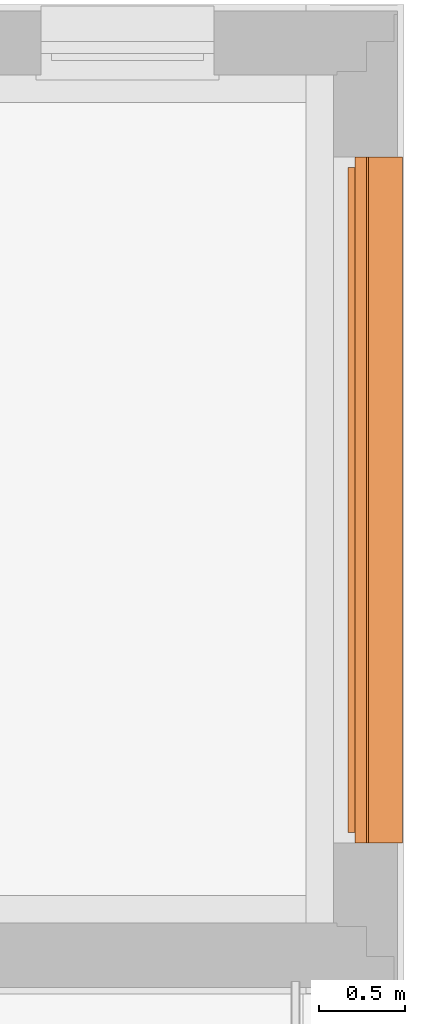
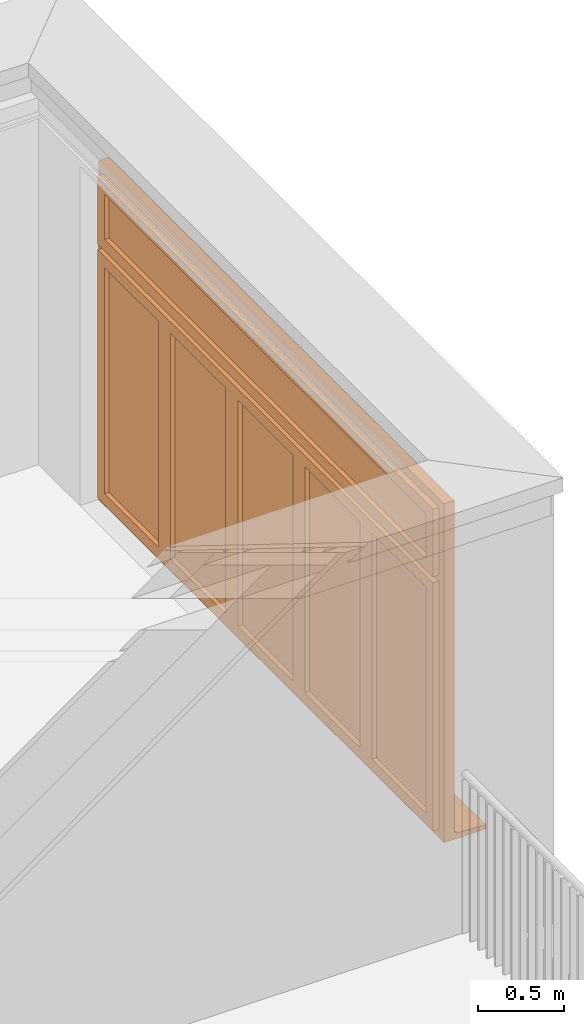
# One storey, part 15 of 15: 1 proxy.
"""IFC4 building model written with IfcOpenShell, lengths in metres."""

from ifc_helpers import new_model, entity, si_unit, converted_unit, derived_unit, direction, frame, origin_with_axes, place, context, subcontext, project, spatial, triangles, type_object, element, save


model = new_model("IFC4")

# Units and contexts
model_context = context("Model", 3, precision=1e-05, world=origin_with_axes(), true_north=direction((-0.526213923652, 0.850352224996)))
body_context = subcontext(model_context, "Body", "Model", "MODEL_VIEW")
ifc_project = project(units=[si_unit("LENGTHUNIT", "METRE"), si_unit("AREAUNIT", "SQUARE_METRE"), si_unit("VOLUMEUNIT", "CUBIC_METRE"), converted_unit("PLANEANGLEUNIT", "DEGREE", entity("IfcPlaneAngleMeasure", 0.0174532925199), si_unit("PLANEANGLEUNIT", "RADIAN"), dimensions=[0, 0, 0, 0, 0, 0, 0]), si_unit("SOLIDANGLEUNIT", "STERADIAN"), converted_unit("TIMEUNIT", "Year", entity("IfcTimeMeasure", 31556926.0), si_unit("TIMEUNIT", "SECOND"), dimensions=[0, 0, 1, 0, 0, 0, 0]), si_unit("MASSUNIT", "GRAM", prefix="KILO"), si_unit("THERMODYNAMICTEMPERATUREUNIT", "DEGREE_CELSIUS"), si_unit("LUMINOUSINTENSITYUNIT", "LUMEN"), si_unit("ENERGYUNIT", "JOULE", prefix="MEGA"), derived_unit("THERMALCONDUCTANCEUNIT", [(si_unit("POWERUNIT", "WATT"), 1), (si_unit("LENGTHUNIT", "METRE"), -1), (si_unit("THERMODYNAMICTEMPERATUREUNIT", "KELVIN"), -1)]), derived_unit("SPECIFICHEATCAPACITYUNIT", [(si_unit("ENERGYUNIT", "JOULE"), 1), (si_unit("MASSUNIT", "GRAM", prefix="KILO"), -1), (si_unit("THERMODYNAMICTEMPERATUREUNIT", "KELVIN"), -1)]), derived_unit("MASSDENSITYUNIT", [(si_unit("MASSUNIT", "GRAM", prefix="KILO"), 1), (si_unit("VOLUMEUNIT", "CUBIC_METRE"), -1)])], contexts=[model_context])

# Site, building, storey
site_placement = place(None, origin_with_axes())
site = spatial("IfcSite", under=ifc_project, at=site_placement, Name="Gelände", CompositionType="ELEMENT")
building_placement = place(site_placement, origin_with_axes())
building = spatial("IfcBuilding", under=site, at=building_placement, Name="Haus vom Nikolaus", CompositionType="ELEMENT")
storey_placement = place(building_placement, frame((0.0, 0.0, 3.75), z_axis=(0.0, 0.0, 1.0), x_axis=(1.0, 0.0, 0.0)))
storey = spatial("IfcBuildingStorey", under=building, at=storey_placement, Name="1. OG", CompositionType="ELEMENT", Elevation=3.75)

# Proxy
building_element_proxy_type = type_object("IfcBuildingElementProxyType", Name="5-Flügelfenster 22", PredefinedType="NOTDEFINED")
proxy_placement = place(storey_placement, frame((11.0649976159, 8.12983217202, 0.15), z_axis=(0.0, 0.0, 1.0), x_axis=(0.0, 1.0, 0.0)))
element("IfcBuildingElementProxy", 1, at=proxy_placement, inside=storey, type_object=building_element_proxy_type, Name="Fenster-010", PredefinedType="NOTDEFINED", context=body_context, shape_type="Tessellation", body=[
    triangles([(4.01, -0.195, 0.05), (0.0, -0.195, 0.0), (0.0, -0.195, 0.05), (4.01, -0.195, 0.0), (0.0, -0.205, 0.04), (0.0, -0.388, 0.0), (0.0, -0.388, 0.007), (0.0, -0.405, 0.03), (0.0, -0.395, 0.007), (0.0, -0.405, 0.0), (0.0, -0.395, 0.0), (0.0, -0.205, 0.05), (4.01, -0.205, 0.05), (4.01, -0.388, 0.0), (4.01, -0.205, 0.04), (4.01, -0.388, 0.007), (4.01, -0.395, 0.007), (4.01, -0.405, 0.0), (4.01, -0.395, 0.0), (4.01, -0.405, 0.03)], [[1, 2, 3], [1, 4, 2], [3, 2, 5], [5, 6, 7], [8, 7, 9], [10, 8, 9], [10, 9, 11], [6, 5, 2], [3, 5, 12], [8, 5, 7], [13, 3, 12], [13, 1, 3], [14, 15, 16], [15, 1, 13], [17, 18, 19], [1, 15, 4], [15, 20, 16], [15, 14, 4], [16, 20, 17], [18, 17, 20], [4, 6, 2], [4, 14, 6], [14, 7, 6], [14, 16, 7], [16, 9, 7], [16, 17, 9], [17, 11, 9], [17, 19, 11], [19, 10, 11], [19, 18, 10], [18, 8, 10], [18, 20, 8], [20, 5, 8], [20, 15, 5], [15, 12, 5], [15, 13, 12]], closed=True),
    triangles([(0.08, -0.125, 0.08), (0.0, -0.195, 0.0), (0.0, -0.125, 0.0), (0.08, -0.195, 0.08), (0.0, -0.195, 2.4), (0.0, -0.125, 2.4), (0.08, -0.125, 1.88), (0.08, -0.125, 2.32), (0.08, -0.125, 1.8), (0.08, -0.195, 1.8), (0.08, -0.195, 1.88), (0.08, -0.195, 2.32)], [[1, 2, 3], [1, 4, 2], [3, 5, 6], [3, 2, 5], [7, 6, 8], [6, 9, 3], [9, 6, 7], [1, 3, 9], [9, 4, 1], [9, 10, 4], [5, 2, 10], [10, 2, 4], [5, 10, 11], [5, 11, 12], [6, 12, 8], [6, 5, 12], [8, 11, 7], [8, 12, 11], [7, 10, 9], [7, 11, 10]], closed=True),
    triangles([(4.01, -0.125, 2.4), (4.01, -0.195, 0.0), (4.01, -0.125, 0.0), (4.01, -0.195, 2.4), (3.93, -0.195, 0.08), (3.93, -0.125, 0.08), (3.93, -0.125, 1.8), (3.93, -0.125, 1.88), (3.93, -0.125, 2.32), (3.93, -0.195, 2.32), (3.93, -0.195, 1.88), (3.93, -0.195, 1.8)], [[1, 2, 3], [1, 4, 2], [3, 5, 6], [3, 2, 5], [1, 3, 7], [7, 3, 6], [1, 7, 8], [1, 8, 9], [9, 4, 1], [9, 10, 4], [11, 4, 10], [4, 12, 2], [12, 4, 11], [5, 2, 12], [6, 12, 7], [6, 5, 12], [7, 11, 8], [7, 12, 11], [8, 10, 9], [8, 11, 10]], closed=True),
    triangles([(4.01, -0.125, 0.0), (0.0, -0.195, 0.0), (0.0, -0.125, 0.0), (4.01, -0.195, 0.0), (0.08, -0.195, 0.08), (0.08, -0.125, 0.08), (3.93, -0.125, 0.08), (3.93, -0.195, 0.08)], [[1, 2, 3], [1, 4, 2], [3, 5, 6], [3, 2, 5], [6, 1, 3], [1, 6, 7], [7, 4, 1], [7, 8, 4], [8, 2, 4], [8, 5, 2], [6, 8, 7], [6, 5, 8]], closed=True),
    triangles([(0.08, -0.125, 2.32), (0.0, -0.195, 2.4), (0.0, -0.125, 2.4), (0.08, -0.195, 2.32), (4.01, -0.195, 2.4), (4.01, -0.125, 2.4), (3.93, -0.125, 2.32), (3.93, -0.195, 2.32)], [[1, 2, 3], [1, 4, 2], [3, 5, 6], [3, 2, 5], [7, 3, 6], [7, 1, 3], [7, 4, 1], [7, 8, 4], [5, 2, 8], [8, 2, 4], [6, 8, 7], [6, 5, 8]], closed=True),
    triangles([(2.005, -0.125, 1.8), (0.08, -0.195, 1.8), (0.08, -0.125, 1.8), (2.005, -0.195, 1.8), (0.08, -0.195, 1.88), (0.08, -0.125, 1.88), (3.93, -0.125, 1.88), (3.93, -0.125, 1.8), (3.93, -0.195, 1.8), (3.93, -0.195, 1.88)], [[1, 2, 3], [1, 4, 2], [3, 5, 6], [3, 2, 5], [6, 1, 3], [1, 6, 7], [1, 7, 8], [8, 4, 1], [8, 9, 4], [10, 4, 9], [10, 5, 4], [4, 5, 2], [6, 10, 7], [6, 5, 10], [7, 9, 8], [7, 10, 9]], closed=True),
    triangles([(0.14, -0.085, 0.14), (0.06, -0.125, 0.06), (0.06, -0.085, 0.06), (0.14, -0.125, 0.14), (0.06, -0.125, 1.82), (0.06, -0.085, 1.82), (0.14, -0.085, 1.74), (0.14, -0.125, 1.74)], [[1, 2, 3], [1, 4, 2], [3, 5, 6], [3, 2, 5], [7, 3, 6], [7, 1, 3], [7, 4, 1], [7, 8, 4], [5, 2, 8], [8, 2, 4], [6, 8, 7], [6, 5, 8]], closed=True),
    triangles([(0.768, -0.085, 0.14), (0.848, -0.125, 0.06), (0.768, -0.125, 0.14), (0.848, -0.085, 0.06), (0.768, -0.125, 1.74), (0.848, -0.125, 1.82), (0.768, -0.085, 1.74), (0.848, -0.085, 1.82)], [[1, 2, 3], [1, 4, 2], [5, 2, 6], [5, 3, 2], [7, 3, 5], [7, 1, 3], [8, 4, 7], [7, 4, 1], [4, 6, 2], [4, 8, 6], [8, 5, 6], [8, 7, 5]], closed=True),
    triangles([(0.848, -0.085, 0.06), (0.06, -0.125, 0.06), (0.06, -0.085, 0.06), (0.848, -0.125, 0.06), (0.14, -0.125, 0.14), (0.14, -0.085, 0.14), (0.768, -0.085, 0.14), (0.768, -0.125, 0.14)], [[1, 2, 3], [1, 4, 2], [3, 5, 6], [3, 2, 5], [1, 3, 7], [7, 3, 6], [7, 4, 1], [7, 8, 4], [8, 2, 4], [8, 5, 2], [6, 8, 7], [6, 5, 8]], closed=True),
    triangles([(0.848, -0.085, 1.82), (0.06, -0.125, 1.82), (0.848, -0.125, 1.82), (0.06, -0.085, 1.82), (0.768, -0.125, 1.74), (0.14, -0.125, 1.74), (0.768, -0.085, 1.74), (0.14, -0.085, 1.74)], [[1, 2, 3], [1, 4, 2], [3, 2, 5], [5, 2, 6], [1, 5, 7], [5, 1, 3], [7, 4, 1], [7, 8, 4], [4, 6, 2], [4, 8, 6], [8, 5, 6], [8, 7, 5]], closed=True),
    triangles([(0.14, -0.125, 0.14), (0.08, -0.155, 0.08), (0.08, -0.125, 0.08), (0.14, -0.155, 0.14), (0.08, -0.155, 1.8), (0.08, -0.125, 1.8), (0.14, -0.125, 1.74), (0.14, -0.155, 1.74)], [[1, 2, 3], [1, 4, 2], [3, 5, 6], [3, 2, 5], [7, 3, 6], [7, 1, 3], [7, 4, 1], [7, 8, 4], [5, 2, 8], [8, 2, 4], [6, 8, 7], [6, 5, 8]], closed=True),
    triangles([(0.768, -0.125, 0.14), (0.828, -0.155, 0.08), (0.768, -0.155, 0.14), (0.828, -0.125, 0.08), (0.768, -0.155, 1.74), (0.828, -0.155, 1.8), (0.768, -0.125, 1.74), (0.828, -0.125, 1.8)], [[1, 2, 3], [1, 4, 2], [5, 2, 6], [5, 3, 2], [7, 3, 5], [7, 1, 3], [8, 4, 7], [7, 4, 1], [4, 6, 2], [4, 8, 6], [7, 6, 8], [6, 7, 5]], closed=True),
    triangles([(0.828, -0.125, 0.08), (0.08, -0.155, 0.08), (0.08, -0.125, 0.08), (0.828, -0.155, 0.08), (0.14, -0.155, 0.14), (0.14, -0.125, 0.14), (0.768, -0.125, 0.14), (0.768, -0.155, 0.14)], [[1, 2, 3], [1, 4, 2], [3, 5, 6], [3, 2, 5], [1, 3, 7], [7, 3, 6], [7, 4, 1], [7, 8, 4], [8, 2, 4], [8, 5, 2], [6, 8, 7], [6, 5, 8]], closed=True),
    triangles([(0.828, -0.125, 1.8), (0.08, -0.155, 1.8), (0.828, -0.155, 1.8), (0.08, -0.125, 1.8), (0.14, -0.155, 1.74), (0.768, -0.155, 1.74), (0.768, -0.125, 1.74), (0.14, -0.125, 1.74)], [[1, 2, 3], [1, 4, 2], [5, 3, 2], [3, 5, 6], [7, 3, 6], [7, 1, 3], [7, 4, 1], [7, 8, 4], [4, 5, 2], [4, 8, 5], [8, 6, 5], [8, 7, 6]], closed=True),
    triangles([(0.768, -0.115, 0.14), (0.14, -0.125, 0.14), (0.14, -0.115, 0.14), (0.768, -0.125, 0.14), (0.14, -0.125, 1.74), (0.14, -0.115, 1.74), (0.768, -0.115, 1.74), (0.768, -0.125, 1.74)], [[1, 2, 3], [1, 4, 2], [3, 5, 6], [3, 2, 5], [7, 3, 6], [7, 1, 3], [7, 4, 1], [7, 8, 4], [8, 2, 4], [8, 5, 2], [6, 8, 7], [6, 5, 8]], closed=True),
    triangles([(0.908, -0.125, 0.14), (0.848, -0.085, 0.06), (0.908, -0.085, 0.14), (0.848, -0.125, 0.06), (0.848, -0.125, 1.82), (0.848, -0.085, 1.82), (0.908, -0.085, 1.74), (0.908, -0.125, 1.74)], [[1, 2, 3], [2, 1, 4], [2, 5, 6], [2, 4, 5], [3, 6, 7], [6, 3, 2], [7, 1, 3], [7, 8, 1], [5, 4, 8], [8, 4, 1], [6, 8, 7], [6, 5, 8]], closed=True),
    triangles([(1.606, -0.085, 1.82), (1.606, -0.125, 0.06), (1.606, -0.085, 0.06), (1.606, -0.125, 1.82), (1.546, -0.125, 0.14), (1.546, -0.085, 0.14), (1.546, -0.085, 1.74), (1.546, -0.125, 1.74)], [[1, 2, 3], [1, 4, 2], [3, 5, 6], [3, 2, 5], [1, 3, 7], [7, 3, 6], [7, 4, 1], [7, 8, 4], [8, 2, 4], [8, 5, 2], [6, 8, 7], [6, 5, 8]], closed=True),
    triangles([(1.606, -0.085, 0.06), (0.848, -0.125, 0.06), (0.848, -0.085, 0.06), (1.606, -0.125, 0.06), (0.908, -0.125, 0.14), (0.908, -0.085, 0.14), (1.546, -0.085, 0.14), (1.546, -0.125, 0.14)], [[1, 2, 3], [1, 4, 2], [3, 5, 6], [3, 2, 5], [6, 1, 3], [1, 6, 7], [7, 4, 1], [7, 8, 4], [5, 4, 8], [4, 5, 2], [6, 8, 7], [6, 5, 8]], closed=True),
    triangles([(0.908, -0.085, 1.74), (0.848, -0.125, 1.82), (0.848, -0.085, 1.82), (0.908, -0.125, 1.74), (1.606, -0.085, 1.82), (1.606, -0.125, 1.82), (1.546, -0.085, 1.74), (1.546, -0.125, 1.74)], [[1, 2, 3], [1, 4, 2], [2, 5, 3], [5, 2, 6], [1, 5, 7], [5, 1, 3], [7, 4, 1], [7, 8, 4], [4, 6, 2], [6, 4, 8], [5, 8, 7], [5, 6, 8]], closed=True),
    triangles([(0.908, -0.125, 0.14), (0.828, -0.155, 0.08), (0.828, -0.125, 0.08), (0.908, -0.155, 0.14), (0.828, -0.155, 1.8), (0.828, -0.125, 1.8), (0.908, -0.125, 1.74), (0.908, -0.155, 1.74)], [[1, 2, 3], [1, 4, 2], [3, 5, 6], [3, 2, 5], [7, 3, 6], [7, 1, 3], [7, 4, 1], [7, 8, 4], [5, 2, 8], [8, 2, 4], [6, 8, 7], [6, 5, 8]], closed=True),
    triangles([(1.626, -0.125, 1.8), (1.626, -0.155, 0.08), (1.626, -0.125, 0.08), (1.626, -0.155, 1.8), (1.546, -0.155, 0.14), (1.546, -0.125, 0.14), (1.546, -0.125, 1.74), (1.546, -0.155, 1.74)], [[1, 2, 3], [1, 4, 2], [3, 5, 6], [3, 2, 5], [1, 3, 7], [7, 3, 6], [7, 4, 1], [7, 8, 4], [8, 2, 4], [8, 5, 2], [6, 8, 7], [6, 5, 8]], closed=True),
    triangles([(1.626, -0.125, 0.08), (0.828, -0.155, 0.08), (0.828, -0.125, 0.08), (1.626, -0.155, 0.08), (0.908, -0.155, 0.14), (0.908, -0.125, 0.14), (1.546, -0.125, 0.14), (1.546, -0.155, 0.14)], [[1, 2, 3], [1, 4, 2], [3, 5, 6], [3, 2, 5], [1, 3, 7], [7, 3, 6], [8, 1, 7], [1, 8, 4], [8, 2, 4], [8, 5, 2], [6, 8, 7], [6, 5, 8]], closed=True),
    triangles([(0.908, -0.155, 1.74), (0.828, -0.125, 1.8), (0.908, -0.125, 1.74), (0.828, -0.155, 1.8), (1.626, -0.155, 1.8), (1.626, -0.125, 1.8), (1.546, -0.125, 1.74), (1.546, -0.155, 1.74)], [[1, 2, 3], [2, 1, 4], [2, 5, 6], [2, 4, 5], [7, 2, 6], [7, 3, 2], [7, 1, 3], [7, 8, 1], [5, 4, 8], [8, 4, 1], [6, 8, 7], [6, 5, 8]], closed=True),
    triangles([(1.546, -0.115, 0.14), (0.908, -0.125, 0.14), (0.908, -0.115, 0.14), (1.546, -0.125, 0.14), (0.908, -0.125, 1.74), (0.908, -0.115, 1.74), (1.546, -0.115, 1.74), (1.546, -0.125, 1.74)], [[1, 2, 3], [1, 4, 2], [3, 5, 6], [3, 2, 5], [7, 3, 6], [7, 1, 3], [7, 4, 1], [7, 8, 4], [8, 2, 4], [8, 5, 2], [6, 8, 7], [6, 5, 8]], closed=True),
    triangles([(1.686, -0.125, 0.14), (1.606, -0.085, 0.06), (1.686, -0.085, 0.14), (1.606, -0.125, 0.06), (1.606, -0.125, 1.82), (1.606, -0.085, 1.82), (1.686, -0.085, 1.74), (1.686, -0.125, 1.74)], [[1, 2, 3], [2, 1, 4], [2, 5, 6], [2, 4, 5], [7, 2, 6], [7, 3, 2], [7, 1, 3], [7, 8, 1], [5, 4, 8], [8, 4, 1], [6, 8, 7], [6, 5, 8]], closed=True),
    triangles([(2.384, -0.085, 1.82), (2.384, -0.125, 0.06), (2.384, -0.085, 0.06), (2.384, -0.125, 1.82), (2.324, -0.125, 0.14), (2.324, -0.085, 0.14), (2.324, -0.085, 1.74), (2.324, -0.125, 1.74)], [[1, 2, 3], [1, 4, 2], [3, 5, 6], [3, 2, 5], [6, 1, 3], [1, 6, 7], [7, 4, 1], [7, 8, 4], [5, 4, 8], [4, 5, 2], [6, 8, 7], [6, 5, 8]], closed=True),
    triangles([(2.384, -0.085, 0.06), (1.606, -0.125, 0.06), (1.606, -0.085, 0.06), (2.384, -0.125, 0.06), (1.686, -0.125, 0.14), (1.686, -0.085, 0.14), (2.324, -0.085, 0.14), (2.324, -0.125, 0.14)], [[1, 2, 3], [1, 4, 2], [3, 5, 6], [3, 2, 5], [6, 1, 3], [1, 6, 7], [7, 4, 1], [7, 8, 4], [5, 4, 8], [4, 5, 2], [5, 7, 6], [7, 5, 8]], closed=True),
    triangles([(1.686, -0.085, 1.74), (1.606, -0.125, 1.82), (1.606, -0.085, 1.82), (1.686, -0.125, 1.74), (2.384, -0.125, 1.82), (2.384, -0.085, 1.82), (2.324, -0.085, 1.74), (2.324, -0.125, 1.74)], [[1, 2, 3], [1, 4, 2], [3, 5, 6], [3, 2, 5], [1, 6, 7], [6, 1, 3], [7, 4, 1], [7, 8, 4], [4, 5, 2], [5, 4, 8], [5, 7, 6], [7, 5, 8]], closed=True),
    triangles([(1.686, -0.155, 0.14), (1.626, -0.125, 0.08), (1.686, -0.125, 0.14), (1.626, -0.155, 0.08), (1.626, -0.155, 1.8), (1.626, -0.125, 1.8), (1.686, -0.125, 1.74), (1.686, -0.155, 1.74)], [[1, 2, 3], [2, 1, 4], [2, 5, 6], [2, 4, 5], [7, 2, 6], [7, 3, 2], [7, 1, 3], [7, 8, 1], [5, 4, 8], [8, 4, 1], [5, 7, 6], [7, 5, 8]], closed=True),
    triangles([(2.404, -0.125, 1.8), (2.404, -0.155, 0.08), (2.404, -0.125, 0.08), (2.404, -0.155, 1.8), (2.324, -0.155, 0.14), (2.324, -0.125, 0.14), (2.324, -0.125, 1.74), (2.324, -0.155, 1.74)], [[1, 2, 3], [1, 4, 2], [3, 5, 6], [3, 2, 5], [1, 3, 7], [7, 3, 6], [7, 4, 1], [7, 8, 4], [8, 2, 4], [8, 5, 2], [6, 8, 7], [6, 5, 8]], closed=True),
    triangles([(2.404, -0.125, 0.08), (1.626, -0.155, 0.08), (1.626, -0.125, 0.08), (2.404, -0.155, 0.08), (1.686, -0.155, 0.14), (1.686, -0.125, 0.14), (2.324, -0.125, 0.14), (2.324, -0.155, 0.14)], [[1, 2, 3], [1, 4, 2], [3, 5, 6], [3, 2, 5], [1, 3, 7], [7, 3, 6], [7, 4, 1], [7, 8, 4], [8, 2, 4], [8, 5, 2], [6, 8, 7], [6, 5, 8]], closed=True),
    triangles([(1.686, -0.125, 1.74), (1.626, -0.155, 1.8), (1.626, -0.125, 1.8), (1.686, -0.155, 1.74), (2.404, -0.155, 1.8), (2.404, -0.125, 1.8), (2.324, -0.125, 1.74), (2.324, -0.155, 1.74)], [[1, 2, 3], [1, 4, 2], [3, 5, 6], [3, 2, 5], [7, 3, 6], [7, 1, 3], [7, 4, 1], [7, 8, 4], [5, 2, 8], [8, 2, 4], [6, 8, 7], [6, 5, 8]], closed=True),
    triangles([(2.324, -0.115, 0.14), (1.686, -0.125, 0.14), (1.686, -0.115, 0.14), (2.324, -0.125, 0.14), (1.686, -0.125, 1.74), (1.686, -0.115, 1.74), (2.324, -0.115, 1.74), (2.324, -0.125, 1.74)], [[1, 2, 3], [1, 4, 2], [3, 5, 6], [3, 2, 5], [7, 3, 6], [7, 1, 3], [7, 4, 1], [7, 8, 4], [8, 2, 4], [8, 5, 2], [6, 8, 7], [6, 5, 8]], closed=True),
    triangles([(2.464, -0.125, 0.14), (2.384, -0.085, 0.06), (2.464, -0.085, 0.14), (2.384, -0.125, 0.06), (2.384, -0.125, 1.82), (2.384, -0.085, 1.82), (2.464, -0.085, 1.74), (2.464, -0.125, 1.74)], [[1, 2, 3], [2, 1, 4], [2, 5, 6], [2, 4, 5], [7, 2, 6], [7, 3, 2], [7, 1, 3], [7, 8, 1], [5, 4, 8], [8, 4, 1], [6, 8, 7], [6, 5, 8]], closed=True),
    triangles([(3.162, -0.085, 1.82), (3.162, -0.125, 0.06), (3.162, -0.085, 0.06), (3.162, -0.125, 1.82), (3.102, -0.125, 0.14), (3.102, -0.085, 0.14), (3.102, -0.085, 1.74), (3.102, -0.125, 1.74)], [[1, 2, 3], [1, 4, 2], [3, 5, 6], [3, 2, 5], [6, 1, 3], [1, 6, 7], [7, 4, 1], [7, 8, 4], [5, 4, 8], [4, 5, 2], [6, 8, 7], [6, 5, 8]], closed=True),
    triangles([(3.162, -0.085, 0.06), (2.384, -0.125, 0.06), (2.384, -0.085, 0.06), (3.162, -0.125, 0.06), (2.464, -0.125, 0.14), (2.464, -0.085, 0.14), (3.102, -0.085, 0.14), (3.102, -0.125, 0.14)], [[1, 2, 3], [1, 4, 2], [3, 5, 6], [3, 2, 5], [6, 1, 3], [1, 6, 7], [7, 4, 1], [7, 8, 4], [5, 4, 8], [4, 5, 2], [6, 8, 7], [6, 5, 8]], closed=True),
    triangles([(2.464, -0.085, 1.74), (2.384, -0.125, 1.82), (2.384, -0.085, 1.82), (2.464, -0.125, 1.74), (3.162, -0.125, 1.82), (3.162, -0.085, 1.82), (3.102, -0.085, 1.74), (3.102, -0.125, 1.74)], [[1, 2, 3], [1, 4, 2], [3, 5, 6], [3, 2, 5], [1, 6, 7], [6, 1, 3], [7, 4, 1], [7, 8, 4], [4, 5, 2], [5, 4, 8], [5, 7, 6], [7, 5, 8]], closed=True),
    triangles([(2.464, -0.125, 0.14), (2.404, -0.155, 0.08), (2.404, -0.125, 0.08), (2.464, -0.155, 0.14), (2.404, -0.155, 1.8), (2.404, -0.125, 1.8), (2.464, -0.125, 1.74), (2.464, -0.155, 1.74)], [[1, 2, 3], [1, 4, 2], [3, 5, 6], [3, 2, 5], [7, 3, 6], [7, 1, 3], [7, 4, 1], [7, 8, 4], [5, 2, 8], [8, 2, 4], [5, 7, 6], [7, 5, 8]], closed=True),
    triangles([(3.182, -0.125, 1.8), (3.182, -0.155, 0.08), (3.182, -0.125, 0.08), (3.182, -0.155, 1.8), (3.102, -0.155, 0.14), (3.102, -0.125, 0.14), (3.102, -0.125, 1.74), (3.102, -0.155, 1.74)], [[1, 2, 3], [1, 4, 2], [3, 5, 6], [3, 2, 5], [1, 3, 7], [7, 3, 6], [7, 4, 1], [7, 8, 4], [8, 2, 4], [8, 5, 2], [6, 8, 7], [6, 5, 8]], closed=True),
    triangles([(3.182, -0.125, 0.08), (2.404, -0.155, 0.08), (2.404, -0.125, 0.08), (3.182, -0.155, 0.08), (2.464, -0.155, 0.14), (2.464, -0.125, 0.14), (3.102, -0.125, 0.14), (3.102, -0.155, 0.14)], [[1, 2, 3], [1, 4, 2], [3, 5, 6], [3, 2, 5], [1, 3, 7], [7, 3, 6], [7, 4, 1], [7, 8, 4], [8, 2, 4], [8, 5, 2], [5, 7, 6], [7, 5, 8]], closed=True),
    triangles([(2.464, -0.125, 1.74), (2.404, -0.155, 1.8), (2.404, -0.125, 1.8), (2.464, -0.155, 1.74), (3.182, -0.125, 1.8), (3.182, -0.155, 1.8), (3.102, -0.125, 1.74), (3.102, -0.155, 1.74)], [[1, 2, 3], [1, 4, 2], [2, 5, 3], [5, 2, 6], [7, 3, 5], [7, 1, 3], [7, 4, 1], [7, 8, 4], [6, 2, 8], [8, 2, 4], [6, 7, 5], [7, 6, 8]], closed=True),
    triangles([(3.102, -0.115, 0.14), (2.464, -0.125, 0.14), (2.464, -0.115, 0.14), (3.102, -0.125, 0.14), (2.464, -0.125, 1.74), (2.464, -0.115, 1.74), (3.102, -0.115, 1.74), (3.102, -0.125, 1.74)], [[1, 2, 3], [1, 4, 2], [3, 5, 6], [3, 2, 5], [7, 3, 6], [7, 1, 3], [7, 4, 1], [7, 8, 4], [8, 2, 4], [8, 5, 2], [6, 8, 7], [6, 5, 8]], closed=True),
    triangles([(3.242, -0.125, 0.14), (3.162, -0.085, 0.06), (3.242, -0.085, 0.14), (3.162, -0.125, 0.06), (3.162, -0.125, 1.82), (3.162, -0.085, 1.82), (3.242, -0.085, 1.74), (3.242, -0.125, 1.74)], [[1, 2, 3], [2, 1, 4], [2, 5, 6], [2, 4, 5], [7, 2, 6], [7, 3, 2], [7, 1, 3], [7, 8, 1], [5, 4, 8], [8, 4, 1], [6, 8, 7], [6, 5, 8]], closed=True),
    triangles([(3.87, -0.085, 0.14), (3.95, -0.125, 0.06), (3.87, -0.125, 0.14), (3.95, -0.085, 0.06), (3.87, -0.125, 1.74), (3.95, -0.125, 1.82), (3.87, -0.085, 1.74), (3.95, -0.085, 1.82)], [[1, 2, 3], [1, 4, 2], [5, 2, 6], [5, 3, 2], [7, 3, 5], [7, 1, 3], [8, 4, 7], [7, 4, 1], [4, 6, 2], [4, 8, 6], [8, 5, 6], [8, 7, 5]], closed=True),
    triangles([(3.95, -0.085, 0.06), (3.162, -0.125, 0.06), (3.162, -0.085, 0.06), (3.95, -0.125, 0.06), (3.242, -0.125, 0.14), (3.242, -0.085, 0.14), (3.87, -0.085, 0.14), (3.87, -0.125, 0.14)], [[1, 2, 3], [1, 4, 2], [3, 5, 6], [3, 2, 5], [1, 3, 7], [7, 3, 6], [7, 4, 1], [7, 8, 4], [8, 2, 4], [8, 5, 2], [6, 8, 7], [6, 5, 8]], closed=True),
    triangles([(3.95, -0.085, 1.82), (3.162, -0.125, 1.82), (3.95, -0.125, 1.82), (3.162, -0.085, 1.82), (3.242, -0.125, 1.74), (3.87, -0.125, 1.74), (3.87, -0.085, 1.74), (3.242, -0.085, 1.74)], [[1, 2, 3], [1, 4, 2], [5, 3, 2], [3, 5, 6], [7, 3, 6], [7, 1, 3], [7, 4, 1], [7, 8, 4], [4, 5, 2], [4, 8, 5], [8, 6, 5], [8, 7, 6]], closed=True),
    triangles([(3.242, -0.155, 0.14), (3.182, -0.125, 0.08), (3.242, -0.125, 0.14), (3.182, -0.155, 0.08), (3.182, -0.155, 1.8), (3.182, -0.125, 1.8), (3.242, -0.125, 1.74), (3.242, -0.155, 1.74)], [[1, 2, 3], [2, 1, 4], [2, 5, 6], [2, 4, 5], [7, 2, 6], [7, 3, 2], [7, 1, 3], [7, 8, 1], [5, 4, 8], [8, 4, 1], [6, 8, 7], [6, 5, 8]], closed=True),
    triangles([(3.87, -0.125, 0.14), (3.93, -0.155, 0.08), (3.87, -0.155, 0.14), (3.93, -0.125, 0.08), (3.87, -0.155, 1.74), (3.93, -0.155, 1.8), (3.87, -0.125, 1.74), (3.93, -0.125, 1.8)], [[1, 2, 3], [1, 4, 2], [5, 2, 6], [5, 3, 2], [7, 3, 5], [7, 1, 3], [8, 4, 7], [7, 4, 1], [4, 6, 2], [4, 8, 6], [8, 5, 6], [8, 7, 5]], closed=True),
    triangles([(3.93, -0.125, 0.08), (3.182, -0.155, 0.08), (3.182, -0.125, 0.08), (3.93, -0.155, 0.08), (3.242, -0.155, 0.14), (3.242, -0.125, 0.14), (3.87, -0.125, 0.14), (3.87, -0.155, 0.14)], [[1, 2, 3], [1, 4, 2], [3, 5, 6], [3, 2, 5], [1, 3, 7], [7, 3, 6], [7, 4, 1], [7, 8, 4], [8, 2, 4], [8, 5, 2], [6, 8, 7], [6, 5, 8]], closed=True),
    triangles([(3.93, -0.125, 1.8), (3.182, -0.155, 1.8), (3.93, -0.155, 1.8), (3.182, -0.125, 1.8), (3.242, -0.155, 1.74), (3.87, -0.155, 1.74), (3.87, -0.125, 1.74), (3.242, -0.125, 1.74)], [[1, 2, 3], [1, 4, 2], [5, 3, 2], [3, 5, 6], [7, 3, 6], [7, 1, 3], [7, 4, 1], [7, 8, 4], [4, 5, 2], [4, 8, 5], [8, 6, 5], [8, 7, 6]], closed=True),
    triangles([(3.87, -0.115, 0.14), (3.242, -0.125, 0.14), (3.242, -0.115, 0.14), (3.87, -0.125, 0.14), (3.242, -0.125, 1.74), (3.242, -0.115, 1.74), (3.87, -0.115, 1.74), (3.87, -0.125, 1.74)], [[1, 2, 3], [1, 4, 2], [3, 5, 6], [3, 2, 5], [7, 3, 6], [7, 1, 3], [7, 4, 1], [7, 8, 4], [8, 2, 4], [8, 5, 2], [6, 8, 7], [6, 5, 8]], closed=True),
    triangles([(0.14, -0.085, 1.94), (0.06, -0.125, 1.86), (0.06, -0.085, 1.86), (0.14, -0.125, 1.94), (0.06, -0.125, 2.34), (0.06, -0.085, 2.34), (0.14, -0.085, 2.26), (0.14, -0.125, 2.26)], [[1, 2, 3], [1, 4, 2], [3, 5, 6], [3, 2, 5], [7, 3, 6], [7, 1, 3], [7, 4, 1], [7, 8, 4], [5, 2, 8], [8, 2, 4], [6, 8, 7], [6, 5, 8]], closed=True),
    triangles([(3.87, -0.085, 1.94), (3.95, -0.125, 1.86), (3.87, -0.125, 1.94), (3.95, -0.085, 1.86), (3.87, -0.125, 2.26), (3.95, -0.125, 2.34), (3.87, -0.085, 2.26), (3.95, -0.085, 2.34)], [[1, 2, 3], [1, 4, 2], [5, 2, 6], [5, 3, 2], [7, 3, 5], [7, 1, 3], [8, 4, 7], [7, 4, 1], [4, 6, 2], [4, 8, 6], [8, 5, 6], [8, 7, 5]], closed=True),
    triangles([(3.95, -0.085, 1.86), (0.06, -0.125, 1.86), (0.06, -0.085, 1.86), (3.95, -0.125, 1.86), (0.14, -0.085, 1.94), (0.14, -0.125, 1.94), (3.87, -0.085, 1.94), (3.87, -0.125, 1.94)], [[1, 2, 3], [1, 4, 2], [2, 5, 3], [5, 2, 6], [1, 3, 7], [7, 3, 5], [7, 4, 1], [7, 8, 4], [8, 2, 4], [8, 6, 2], [5, 8, 7], [5, 6, 8]], closed=True),
    triangles([(3.95, -0.085, 2.34), (0.06, -0.125, 2.34), (3.95, -0.125, 2.34), (0.06, -0.085, 2.34), (3.87, -0.125, 2.26), (0.14, -0.125, 2.26), (3.87, -0.085, 2.26), (0.14, -0.085, 2.26)], [[1, 2, 3], [1, 4, 2], [3, 2, 5], [5, 2, 6], [7, 3, 5], [7, 1, 3], [7, 4, 1], [7, 8, 4], [4, 6, 2], [4, 8, 6], [8, 5, 6], [8, 7, 5]], closed=True),
    triangles([(0.14, -0.125, 1.94), (0.08, -0.155, 1.88), (0.08, -0.125, 1.88), (0.14, -0.155, 1.94), (0.08, -0.155, 2.32), (0.08, -0.125, 2.32), (0.14, -0.125, 2.26), (0.14, -0.155, 2.26)], [[1, 2, 3], [1, 4, 2], [3, 5, 6], [3, 2, 5], [1, 6, 7], [6, 1, 3], [7, 4, 1], [7, 8, 4], [4, 5, 2], [5, 4, 8], [6, 8, 7], [6, 5, 8]], closed=True),
    triangles([(3.93, -0.125, 1.88), (3.87, -0.155, 1.94), (3.87, -0.125, 1.94), (3.93, -0.155, 1.88), (3.87, -0.155, 2.26), (3.93, -0.155, 2.32), (3.87, -0.125, 2.26), (3.93, -0.125, 2.32)], [[1, 2, 3], [2, 1, 4], [5, 4, 6], [5, 2, 4], [7, 2, 5], [7, 3, 2], [3, 8, 1], [8, 3, 7], [1, 6, 4], [1, 8, 6], [7, 6, 8], [6, 7, 5]], closed=True),
    triangles([(3.93, -0.125, 1.88), (0.08, -0.155, 1.88), (0.08, -0.125, 1.88), (3.93, -0.155, 1.88), (0.14, -0.155, 1.94), (0.14, -0.125, 1.94), (3.87, -0.125, 1.94), (3.87, -0.155, 1.94)], [[1, 2, 3], [1, 4, 2], [3, 5, 6], [3, 2, 5], [6, 1, 3], [1, 6, 7], [8, 1, 7], [1, 8, 4], [8, 2, 4], [8, 5, 2], [6, 8, 7], [6, 5, 8]], closed=True),
    triangles([(3.93, -0.125, 2.32), (0.08, -0.155, 2.32), (3.93, -0.155, 2.32), (0.08, -0.125, 2.32), (3.87, -0.155, 2.26), (0.14, -0.155, 2.26), (3.87, -0.125, 2.26), (0.14, -0.125, 2.26)], [[1, 2, 3], [1, 4, 2], [3, 2, 5], [5, 2, 6], [7, 3, 5], [7, 1, 3], [7, 4, 1], [7, 8, 4], [4, 6, 2], [4, 8, 6], [8, 5, 6], [8, 7, 5]], closed=True),
    triangles([(3.87, -0.115, 1.94), (0.14, -0.125, 1.94), (0.14, -0.115, 1.94), (3.87, -0.125, 1.94), (0.14, -0.125, 2.26), (0.14, -0.115, 2.26), (3.87, -0.115, 2.26), (3.87, -0.125, 2.26)], [[1, 2, 3], [1, 4, 2], [3, 5, 6], [3, 2, 5], [7, 3, 6], [7, 1, 3], [7, 4, 1], [7, 8, 4], [8, 2, 4], [8, 5, 2], [6, 8, 7], [6, 5, 8]], closed=True),
])

save(model, "model.ifc")
